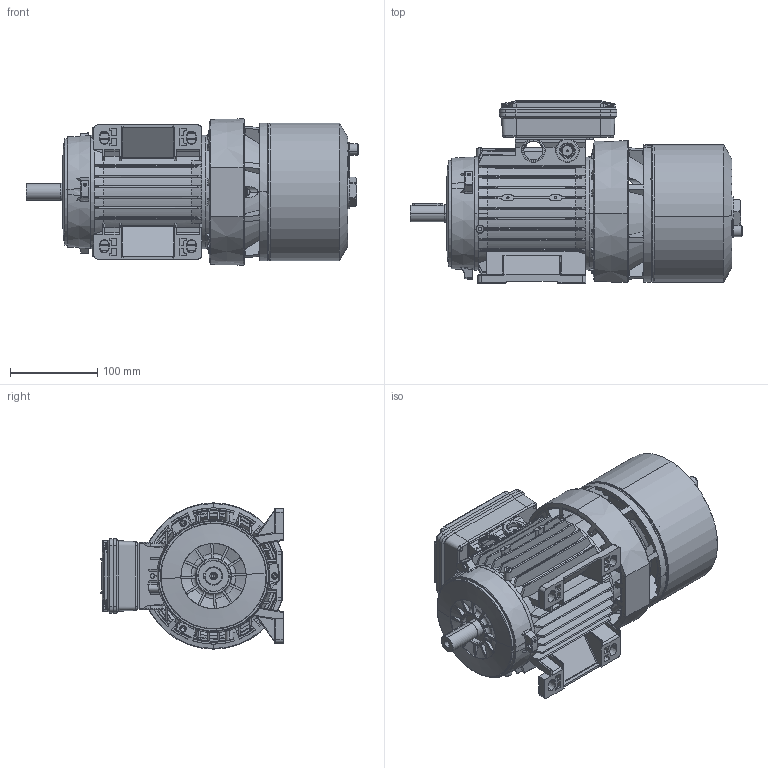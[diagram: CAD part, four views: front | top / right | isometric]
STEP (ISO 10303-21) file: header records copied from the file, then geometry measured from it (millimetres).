
FILE_DESCRIPTION (( 'STEP AP214' ), '1' );
FILE_NAME ('M02DA0011.STEP', '2019-01-31T13:37:14', ( '' ), ( '' ), 'SwSTEP 2.0', 'SolidWorks 2018', '' );
FILE_SCHEMA (( 'AUTOMOTIVE_DESIGN' ));
Length unit declared in the file: millimetre
Products named in the file (15): Scudo Lato Freno BA80 P1; Carcassa 80 B3; M02DA0011; Scatola per Morsettiera Doppia 63-71-80 - Completa; Guarnizione Scatola Singola 63-71-80; Vite per coperchio morsettiera; Coperchio per Scatola per Morsettiera Doppia 63-71-80; Scatola per Morsettiera Doppia 63-71-80; O-ring freno BA80; Vite a Testa Esagona con foro e tappo 71-112 - Modificata; Scudo Lato Comando B3 BA-BM 80 - DCAD0094; Chiavetta 80; Albero BA 80; Cuffia serie BA 80; Convogliatore con pista d''attrito P2 BA80
Assembly tree (17 placements, depth 3):
  M02DA0011
    Carcassa 80 B3
    Scudo Lato Freno BA80 P1
    Convogliatore con pista d''attrito P2 BA80
    Cuffia serie BA 80
    Albero BA 80
    Chiavetta 80
    Scudo Lato Comando B3 BA-BM 80 - DCAD0094
    Vite a Testa Esagona con foro e tappo 71-112 - Modificata
    O-ring freno BA80
    Scatola per Morsettiera Doppia 63-71-80 - Completa
      Scatola per Morsettiera Doppia 63-71-80
      Coperchio per Scatola per Morsettiera Doppia 63-71-80
      Vite per coperchio morsettiera  x4
      Guarnizione Scatola Singola 63-71-80
Bounding box: 381.5 x 209.5 x 168 mm (x, y, z)
Volume: 1218635.5 mm3; surface area: 751319.6 mm2
Topology: 16 solids, 16 shells, 3039 faces, 8348 edges, 5329 vertices
Faces by surface type: plane 998, cylinder 959, cone 392, torus 377, bspline 301, sphere 12
Entity records: 112196 total; most frequent: CARTESIAN_POINT 41755, ORIENTED_EDGE 15778, DIRECTION 13151, EDGE_CURVE 7889, VERTEX_POINT 5079, AXIS2_PLACEMENT_3D 5058, EDGE_LOOP 3048, VECTOR 3035
